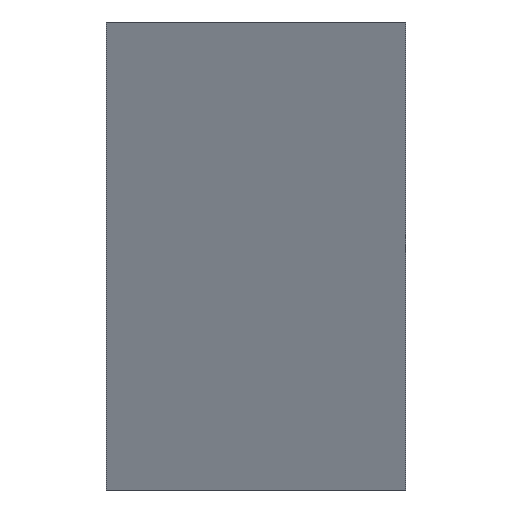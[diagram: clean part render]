
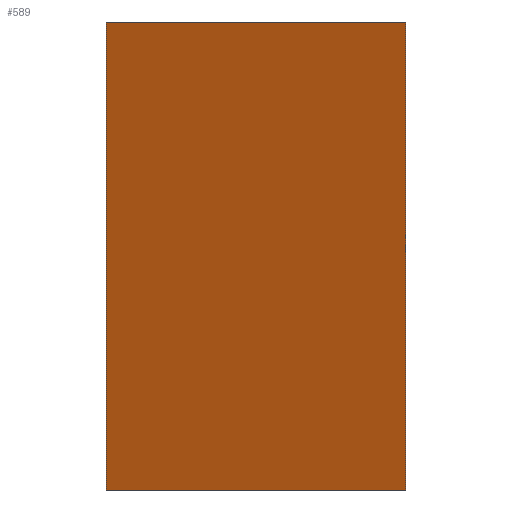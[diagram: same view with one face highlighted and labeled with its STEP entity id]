
A CAD part, front view. The second image highlights one B-rep face of the part: STEP entity #589.
In plain terms, the highlighted planar face has unit normal (0, -0.937, -0.349).
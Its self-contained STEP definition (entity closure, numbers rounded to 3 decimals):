
#21 = EDGE_CURVE('',#22,#24,#26,.T.);
#22 = VERTEX_POINT('',#23);
#23 = CARTESIAN_POINT('',(1.,-9.174,-31.25));
#24 = VERTEX_POINT('',#25);
#25 = CARTESIAN_POINT('',(1.,-20.82,0.));
#26 = SURFACE_CURVE('',#27,(#31,#43),.PCURVE_S1.);
#27 = LINE('',#28,#29);
#28 = CARTESIAN_POINT('',(1.,-2.,-50.5));
#29 = VECTOR('',#30,1.);
#30 = DIRECTION('',(0.,-0.349,0.937));
#31 = PCURVE('',#32,#37);
#32 = PLANE('',#33);
#33 = AXIS2_PLACEMENT_3D('',#34,#35,#36);
#34 = CARTESIAN_POINT('',(1.,0.443,-11.5));
#35 = DIRECTION('',(1.,0.,0.));
#36 = DIRECTION('',(-0.,0.,1.));
#37 = DEFINITIONAL_REPRESENTATION('',(#38),#42);
#38 = LINE('',#39,#40);
#39 = CARTESIAN_POINT('',(-39.,2.443));
#40 = VECTOR('',#41,1.);
#41 = DIRECTION('',(0.937,0.349));
#42 = ( GEOMETRIC_REPRESENTATION_CONTEXT(2) 
PARAMETRIC_REPRESENTATION_CONTEXT() REPRESENTATION_CONTEXT('2D SPACE',''
  ) );
#43 = PCURVE('',#44,#49);
#44 = PLANE('',#45);
#45 = AXIS2_PLACEMENT_3D('',#46,#47,#48);
#46 = CARTESIAN_POINT('',(1.,-2.,-50.5));
#47 = DIRECTION('',(0.,-0.937,-0.349));
#48 = DIRECTION('',(0.,-0.349,0.937));
#49 = DEFINITIONAL_REPRESENTATION('',(#50),#54);
#50 = LINE('',#51,#52);
#51 = CARTESIAN_POINT('',(0.,0.));
#52 = VECTOR('',#53,1.);
#53 = DIRECTION('',(1.,0.));
#54 = ( GEOMETRIC_REPRESENTATION_CONTEXT(2) 
PARAMETRIC_REPRESENTATION_CONTEXT() REPRESENTATION_CONTEXT('2D SPACE',''
  ) );
#72 = PLANE('',#73);
#73 = AXIS2_PLACEMENT_3D('',#74,#75,#76);
#74 = CARTESIAN_POINT('',(-400.,-388.,-31.25));
#75 = DIRECTION('',(0.,0.,1.));
#76 = DIRECTION('',(1.,0.,0.));
#350 = PLANE('',#351);
#351 = AXIS2_PLACEMENT_3D('',#352,#353,#354);
#352 = CARTESIAN_POINT('',(-400.,-388.,0.));
#353 = DIRECTION('',(0.,0.,1.));
#354 = DIRECTION('',(1.,0.,0.));
#589 = ADVANCED_FACE('',(#590),#44,.T.);
#590 = FACE_BOUND('',#591,.T.);
#591 = EDGE_LOOP('',(#592,#593,#616,#644));
#592 = ORIENTED_EDGE('',*,*,#21,.F.);
#593 = ORIENTED_EDGE('',*,*,#594,.F.);
#594 = EDGE_CURVE('',#595,#22,#597,.T.);
#595 = VERTEX_POINT('',#596);
#596 = CARTESIAN_POINT('',(21.,-9.174,-31.25));
#597 = SURFACE_CURVE('',#598,(#602,#609),.PCURVE_S1.);
#598 = LINE('',#599,#600);
#599 = CARTESIAN_POINT('',(-199.5,-9.174,-31.25));
#600 = VECTOR('',#601,1.);
#601 = DIRECTION('',(-1.,-0.,0.));
#602 = PCURVE('',#44,#603);
#603 = DEFINITIONAL_REPRESENTATION('',(#604),#608);
#604 = LINE('',#605,#606);
#605 = CARTESIAN_POINT('',(20.543,200.5));
#606 = VECTOR('',#607,1.);
#607 = DIRECTION('',(0.,1.));
#608 = ( GEOMETRIC_REPRESENTATION_CONTEXT(2) 
PARAMETRIC_REPRESENTATION_CONTEXT() REPRESENTATION_CONTEXT('2D SPACE',''
  ) );
#609 = PCURVE('',#72,#610);
#610 = DEFINITIONAL_REPRESENTATION('',(#611),#615);
#611 = LINE('',#612,#613);
#612 = CARTESIAN_POINT('',(200.5,378.826));
#613 = VECTOR('',#614,1.);
#614 = DIRECTION('',(-1.,0.));
#615 = ( GEOMETRIC_REPRESENTATION_CONTEXT(2) 
PARAMETRIC_REPRESENTATION_CONTEXT() REPRESENTATION_CONTEXT('2D SPACE',''
  ) );
#616 = ORIENTED_EDGE('',*,*,#617,.T.);
#617 = EDGE_CURVE('',#595,#618,#620,.T.);
#618 = VERTEX_POINT('',#619);
#619 = CARTESIAN_POINT('',(21.,-20.82,0.));
#620 = SURFACE_CURVE('',#621,(#625,#632),.PCURVE_S1.);
#621 = LINE('',#622,#623);
#622 = CARTESIAN_POINT('',(21.,-2.,-50.5));
#623 = VECTOR('',#624,1.);
#624 = DIRECTION('',(0.,-0.349,0.937));
#625 = PCURVE('',#44,#626);
#626 = DEFINITIONAL_REPRESENTATION('',(#627),#631);
#627 = LINE('',#628,#629);
#628 = CARTESIAN_POINT('',(0.,-20.));
#629 = VECTOR('',#630,1.);
#630 = DIRECTION('',(1.,0.));
#631 = ( GEOMETRIC_REPRESENTATION_CONTEXT(2) 
PARAMETRIC_REPRESENTATION_CONTEXT() REPRESENTATION_CONTEXT('2D SPACE',''
  ) );
#632 = PCURVE('',#633,#638);
#633 = PLANE('',#634);
#634 = AXIS2_PLACEMENT_3D('',#635,#636,#637);
#635 = CARTESIAN_POINT('',(21.,0.443,-11.5));
#636 = DIRECTION('',(1.,0.,0.));
#637 = DIRECTION('',(-0.,0.,1.));
#638 = DEFINITIONAL_REPRESENTATION('',(#639),#643);
#639 = LINE('',#640,#641);
#640 = CARTESIAN_POINT('',(-39.,2.443));
#641 = VECTOR('',#642,1.);
#642 = DIRECTION('',(0.937,0.349));
#643 = ( GEOMETRIC_REPRESENTATION_CONTEXT(2) 
PARAMETRIC_REPRESENTATION_CONTEXT() REPRESENTATION_CONTEXT('2D SPACE',''
  ) );
#644 = ORIENTED_EDGE('',*,*,#645,.T.);
#645 = EDGE_CURVE('',#618,#24,#646,.T.);
#646 = SURFACE_CURVE('',#647,(#651,#658),.PCURVE_S1.);
#647 = LINE('',#648,#649);
#648 = CARTESIAN_POINT('',(-199.5,-20.82,0.));
#649 = VECTOR('',#650,1.);
#650 = DIRECTION('',(-1.,-0.,0.));
#651 = PCURVE('',#44,#652);
#652 = DEFINITIONAL_REPRESENTATION('',(#653),#657);
#653 = LINE('',#654,#655);
#654 = CARTESIAN_POINT('',(53.893,200.5));
#655 = VECTOR('',#656,1.);
#656 = DIRECTION('',(0.,1.));
#657 = ( GEOMETRIC_REPRESENTATION_CONTEXT(2) 
PARAMETRIC_REPRESENTATION_CONTEXT() REPRESENTATION_CONTEXT('2D SPACE',''
  ) );
#658 = PCURVE('',#350,#659);
#659 = DEFINITIONAL_REPRESENTATION('',(#660),#664);
#660 = LINE('',#661,#662);
#661 = CARTESIAN_POINT('',(200.5,367.18));
#662 = VECTOR('',#663,1.);
#663 = DIRECTION('',(-1.,0.));
#664 = ( GEOMETRIC_REPRESENTATION_CONTEXT(2) 
PARAMETRIC_REPRESENTATION_CONTEXT() REPRESENTATION_CONTEXT('2D SPACE',''
  ) );
